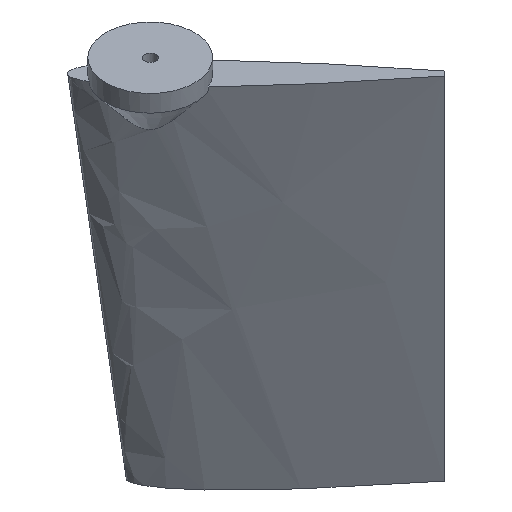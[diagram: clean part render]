
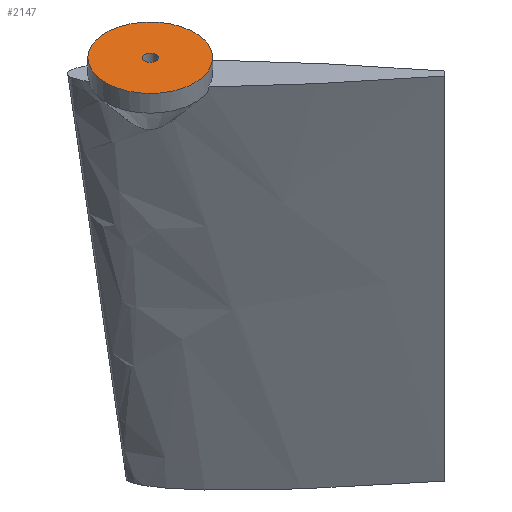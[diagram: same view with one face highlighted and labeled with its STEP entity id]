
A CAD part, top view. The second image highlights one B-rep face of the part: STEP entity #2147.
In plain terms, the highlighted planar face has unit normal (0, 0.819, 0.574).
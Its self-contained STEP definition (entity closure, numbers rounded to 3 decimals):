
#340 = CYLINDRICAL_SURFACE('',#341,6.5);
#341 = AXIS2_PLACEMENT_3D('',#342,#343,#344);
#342 = CARTESIAN_POINT('',(393.4,-18.431,-12.905));
#343 = DIRECTION('',(-0.,-0.819,-0.574));
#344 = DIRECTION('',(-0.,-0.574,0.819));
#2064 = VERTEX_POINT('',#2065);
#2065 = CARTESIAN_POINT('',(393.4,-22.159,-7.581));
#2117 = EDGE_CURVE('',#2064,#2064,#2118,.T.);
#2118 = SURFACE_CURVE('',#2119,(#2124,#2131),.PCURVE_S1.);
#2119 = CIRCLE('',#2120,6.5);
#2120 = AXIS2_PLACEMENT_3D('',#2121,#2122,#2123);
#2121 = CARTESIAN_POINT('',(393.4,-18.431,-12.905));
#2122 = DIRECTION('',(0.,0.819,0.574));
#2123 = DIRECTION('',(-0.,-0.574,0.819));
#2124 = PCURVE('',#340,#2125);
#2125 = DEFINITIONAL_REPRESENTATION('',(#2126),#2130);
#2126 = LINE('',#2127,#2128);
#2127 = CARTESIAN_POINT('',(-0.,0.));
#2128 = VECTOR('',#2129,1.);
#2129 = DIRECTION('',(-1.,0.));
#2130 = ( GEOMETRIC_REPRESENTATION_CONTEXT(2) 
PARAMETRIC_REPRESENTATION_CONTEXT() REPRESENTATION_CONTEXT('2D SPACE',''
  ) );
#2131 = PCURVE('',#2132,#2137);
#2132 = PLANE('',#2133);
#2133 = AXIS2_PLACEMENT_3D('',#2134,#2135,#2136);
#2134 = CARTESIAN_POINT('',(393.4,-18.431,-12.905));
#2135 = DIRECTION('',(-0.,-0.819,-0.574));
#2136 = DIRECTION('',(0.,0.574,-0.819));
#2137 = DEFINITIONAL_REPRESENTATION('',(#2138),#2146);
#2138 = ( BOUNDED_CURVE() B_SPLINE_CURVE(2,(#2139,#2140,#2141,#2142,
#2143,#2144,#2145),.UNSPECIFIED.,.T.,.F.) B_SPLINE_CURVE_WITH_KNOTS((1,2
    ,2,2,2,1),(-2.094,0.,2.094,4.189,
6.283,8.378),.UNSPECIFIED.) CURVE() 
GEOMETRIC_REPRESENTATION_ITEM() RATIONAL_B_SPLINE_CURVE((1.,0.5,1.,0.5,
1.,0.5,1.)) REPRESENTATION_ITEM('') );
#2139 = CARTESIAN_POINT('',(-6.5,0.));
#2140 = CARTESIAN_POINT('',(-6.5,11.258));
#2141 = CARTESIAN_POINT('',(3.25,5.629));
#2142 = CARTESIAN_POINT('',(13.,0.));
#2143 = CARTESIAN_POINT('',(3.25,-5.629));
#2144 = CARTESIAN_POINT('',(-6.5,-11.258));
#2145 = CARTESIAN_POINT('',(-6.5,0.));
#2146 = ( GEOMETRIC_REPRESENTATION_CONTEXT(2) 
PARAMETRIC_REPRESENTATION_CONTEXT() REPRESENTATION_CONTEXT('2D SPACE',''
  ) );
#2147 = ADVANCED_FACE('',(#2148,#2151),#2132,.F.);
#2148 = FACE_BOUND('',#2149,.T.);
#2149 = EDGE_LOOP('',(#2150));
#2150 = ORIENTED_EDGE('',*,*,#2117,.T.);
#2151 = FACE_BOUND('',#2152,.T.);
#2152 = EDGE_LOOP('',(#2153));
#2153 = ORIENTED_EDGE('',*,*,#2154,.F.);
#2154 = EDGE_CURVE('',#2155,#2155,#2157,.T.);
#2155 = VERTEX_POINT('',#2156);
#2156 = CARTESIAN_POINT('',(393.4,-18.918,-12.209));
#2157 = SURFACE_CURVE('',#2158,(#2163,#2174),.PCURVE_S1.);
#2158 = CIRCLE('',#2159,0.85);
#2159 = AXIS2_PLACEMENT_3D('',#2160,#2161,#2162);
#2160 = CARTESIAN_POINT('',(393.4,-18.431,-12.905));
#2161 = DIRECTION('',(0.,0.819,0.574));
#2162 = DIRECTION('',(-0.,-0.574,0.819));
#2163 = PCURVE('',#2132,#2164);
#2164 = DEFINITIONAL_REPRESENTATION('',(#2165),#2173);
#2165 = ( BOUNDED_CURVE() B_SPLINE_CURVE(2,(#2166,#2167,#2168,#2169,
#2170,#2171,#2172),.UNSPECIFIED.,.T.,.F.) B_SPLINE_CURVE_WITH_KNOTS((1,2
    ,2,2,2,1),(-2.094,0.,2.094,4.189,
6.283,8.378),.UNSPECIFIED.) CURVE() 
GEOMETRIC_REPRESENTATION_ITEM() RATIONAL_B_SPLINE_CURVE((1.,0.5,1.,0.5,
1.,0.5,1.)) REPRESENTATION_ITEM('') );
#2166 = CARTESIAN_POINT('',(-0.85,0.));
#2167 = CARTESIAN_POINT('',(-0.85,1.472));
#2168 = CARTESIAN_POINT('',(0.425,0.736));
#2169 = CARTESIAN_POINT('',(1.7,0.));
#2170 = CARTESIAN_POINT('',(0.425,-0.736));
#2171 = CARTESIAN_POINT('',(-0.85,-1.472));
#2172 = CARTESIAN_POINT('',(-0.85,0.));
#2173 = ( GEOMETRIC_REPRESENTATION_CONTEXT(2) 
PARAMETRIC_REPRESENTATION_CONTEXT() REPRESENTATION_CONTEXT('2D SPACE',''
  ) );
#2174 = PCURVE('',#2175,#2180);
#2175 = CYLINDRICAL_SURFACE('',#2176,0.85);
#2176 = AXIS2_PLACEMENT_3D('',#2177,#2178,#2179);
#2177 = CARTESIAN_POINT('',(393.4,-17.612,-12.332));
#2178 = DIRECTION('',(-0.,-0.819,-0.574));
#2179 = DIRECTION('',(-0.,-0.574,0.819));
#2180 = DEFINITIONAL_REPRESENTATION('',(#2181),#2185);
#2181 = LINE('',#2182,#2183);
#2182 = CARTESIAN_POINT('',(-0.,1.));
#2183 = VECTOR('',#2184,1.);
#2184 = DIRECTION('',(-1.,0.));
#2185 = ( GEOMETRIC_REPRESENTATION_CONTEXT(2) 
PARAMETRIC_REPRESENTATION_CONTEXT() REPRESENTATION_CONTEXT('2D SPACE',''
  ) );
